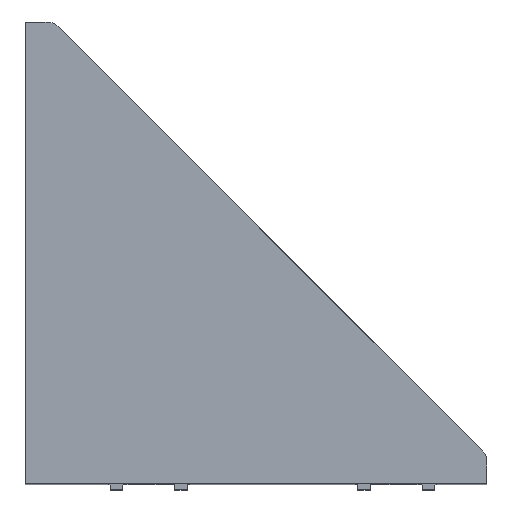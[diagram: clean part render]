
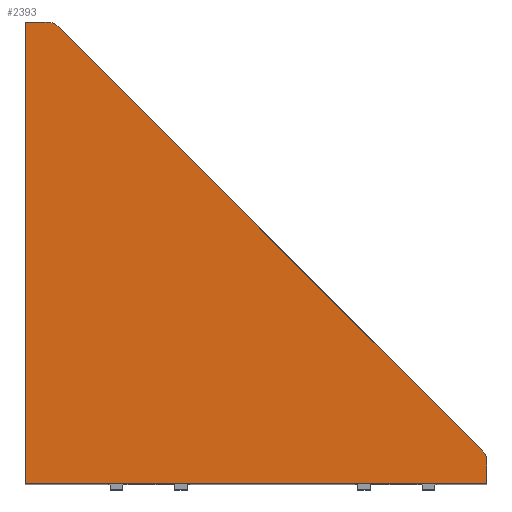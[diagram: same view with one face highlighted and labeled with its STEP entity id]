
A CAD part, top view. The second image highlights one B-rep face of the part: STEP entity #2393.
In plain terms, the highlighted planar face has unit normal (0, 0, 1).
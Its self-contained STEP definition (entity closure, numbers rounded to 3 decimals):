
#22 = LINE ( 'NONE', #1110, #3461 ) ;
#24 = CARTESIAN_POINT ( 'NONE',  ( 0., 84., 42. ) ) ;
#170 = VERTEX_POINT ( 'NONE', #400 ) ;
#279 = VECTOR ( 'NONE', #1610, 1000. ) ;
#291 = DIRECTION ( 'NONE',  ( 0., 0., -1. ) ) ;
#352 = CARTESIAN_POINT ( 'NONE',  ( 0., 84., 42. ) ) ;
#400 = CARTESIAN_POINT ( 'NONE',  ( 0., 0., 42. ) ) ;
#434 = ORIENTED_EDGE ( 'NONE', *, *, #1189, .F. ) ;
#448 = VERTEX_POINT ( 'NONE', #1966 ) ;
#488 = CARTESIAN_POINT ( 'NONE',  ( 6.121, 83.121, 42. ) ) ;
#503 = ORIENTED_EDGE ( 'NONE', *, *, #538, .T. ) ;
#521 = DIRECTION ( 'NONE',  ( 0., 0., -1. ) ) ;
#538 = EDGE_CURVE ( 'NONE', #2246, #1635, #1389, .T. ) ;
#577 = LINE ( 'NONE', #2150, #279 ) ;
#707 = DIRECTION ( 'NONE',  ( 0., -1., 0. ) ) ;
#866 = DIRECTION ( 'NONE',  ( 0., 1., 0. ) ) ;
#960 = VERTEX_POINT ( 'NONE', #352 ) ;
#971 = LINE ( 'NONE', #2927, #2568 ) ;
#991 = CARTESIAN_POINT ( 'NONE',  ( 4., 81., 42. ) ) ;
#1029 = DIRECTION ( 'NONE',  ( 0., 0., -1. ) ) ;
#1110 = CARTESIAN_POINT ( 'NONE',  ( 0., 0., 42. ) ) ;
#1189 = EDGE_CURVE ( 'NONE', #2246, #448, #3438, .T. ) ;
#1290 = EDGE_CURVE ( 'NONE', #170, #960, #22, .T. ) ;
#1326 = ORIENTED_EDGE ( 'NONE', *, *, #3351, .F. ) ;
#1361 = DIRECTION ( 'NONE',  ( 1., 0., 0. ) ) ;
#1376 = AXIS2_PLACEMENT_3D ( 'NONE', #991, #1029, #1541 ) ;
#1389 = LINE ( 'NONE', #2476, #2309 ) ;
#1391 = VERTEX_POINT ( 'NONE', #2024 ) ;
#1392 = CARTESIAN_POINT ( 'NONE',  ( 4., 81., 42. ) ) ;
#1541 = DIRECTION ( 'NONE',  ( -1., 0., 0. ) ) ;
#1610 = DIRECTION ( 'NONE',  ( -1., 0., 0. ) ) ;
#1624 = CARTESIAN_POINT ( 'NONE',  ( 81., 4., 42. ) ) ;
#1631 = ORIENTED_EDGE ( 'NONE', *, *, #2687, .F. ) ;
#1635 = VERTEX_POINT ( 'NONE', #488 ) ;
#1641 = DIRECTION ( 'NONE',  ( -1., 0., 0. ) ) ;
#1663 = DIRECTION ( 'NONE',  ( -1., 0., 0. ) ) ;
#1787 = AXIS2_PLACEMENT_3D ( 'NONE', #1624, #521, #1663 ) ;
#1829 = CIRCLE ( 'NONE', #2681, 3. ) ;
#1832 = ORIENTED_EDGE ( 'NONE', *, *, #1290, .F. ) ;
#1936 = EDGE_LOOP ( 'NONE', ( #434, #503, #1631, #1326, #1832, #2561, #3157 ) ) ;
#1966 = CARTESIAN_POINT ( 'NONE',  ( 84., 4., 42. ) ) ;
#2024 = CARTESIAN_POINT ( 'NONE',  ( 4., 84., 42. ) ) ;
#2150 = CARTESIAN_POINT ( 'NONE',  ( 84., 0., 42. ) ) ;
#2246 = VERTEX_POINT ( 'NONE', #3379 ) ;
#2282 = DIRECTION ( 'NONE',  ( -0.707, 0.707, 0. ) ) ;
#2309 = VECTOR ( 'NONE', #2282, 1000. ) ;
#2348 = FACE_OUTER_BOUND ( 'NONE', #1936, .T. ) ;
#2393 = ADVANCED_FACE ( 'NONE', ( #2348 ), #2936, .F. ) ;
#2464 = LINE ( 'NONE', #24, #2498 ) ;
#2476 = CARTESIAN_POINT ( 'NONE',  ( 6.121, 83.121, 42. ) ) ;
#2498 = VECTOR ( 'NONE', #1361, 1000. ) ;
#2515 = CARTESIAN_POINT ( 'NONE',  ( 84., 0., 42. ) ) ;
#2561 = ORIENTED_EDGE ( 'NONE', *, *, #3310, .F. ) ;
#2568 = VECTOR ( 'NONE', #707, 1000. ) ;
#2603 = VERTEX_POINT ( 'NONE', #2515 ) ;
#2681 = AXIS2_PLACEMENT_3D ( 'NONE', #1392, #291, #1641 ) ;
#2687 = EDGE_CURVE ( 'NONE', #1391, #1635, #1829, .T. ) ;
#2927 = CARTESIAN_POINT ( 'NONE',  ( 84., 0., 42. ) ) ;
#2936 = PLANE ( 'NONE',  #1376 ) ;
#3157 = ORIENTED_EDGE ( 'NONE', *, *, #3243, .F. ) ;
#3243 = EDGE_CURVE ( 'NONE', #448, #2603, #971, .T. ) ;
#3310 = EDGE_CURVE ( 'NONE', #2603, #170, #577, .T. ) ;
#3351 = EDGE_CURVE ( 'NONE', #960, #1391, #2464, .T. ) ;
#3379 = CARTESIAN_POINT ( 'NONE',  ( 83.121, 6.121, 42. ) ) ;
#3438 = CIRCLE ( 'NONE', #1787, 3. ) ;
#3461 = VECTOR ( 'NONE', #866, 1000. ) ;
